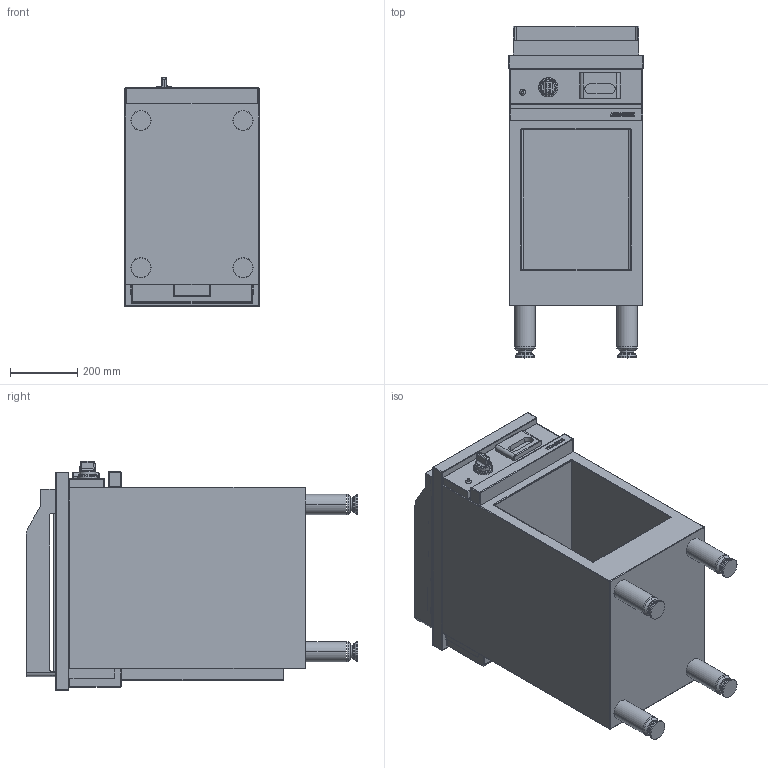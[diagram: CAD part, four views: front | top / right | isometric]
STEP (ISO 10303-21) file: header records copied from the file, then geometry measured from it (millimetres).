
FILE_DESCRIPTION((''),'2;1');
FILE_NAME('CMG410SLRC_EXPORT_STEP_ASM','2017-11-22T',('r.avril'),(''),'PRO/ENGINEER BY PARAMETRIC TECHNOLOGY CORPORATION, 2014200','PRO/ENGINEER BY PARAMETRIC TECHNOLOGY CORPORATION, 2014200','');
FILE_SCHEMA(('AP203_CONFIGURATION_CONTROLLED_3D_DESIGN_OF_MECHANICAL_PARTS_AND_ASSEMBLIES_MIM_LF { 1 0 10303 403 2 1 2 }'));
Length unit declared in the file: millimetre
Products named in the file (10): MODULES_AMB_400_EXPORT_STEP; TABLE_410_GRILLADE; TABLE_410_GRILLADE_ASM; ALLUMEUR_EXPORT_STEP; TIROIR_GRILLADE_EXPORT_STEP; MANETTE_AMB_EXPORT_STEP; 50288700; 50289100; 65070007_ASM; CMG410SLRC_EXPORT_STEP_ASM
Assembly tree (9 placements, depth 3):
  CMG410SLRC_EXPORT_STEP_ASM
    MODULES_AMB_400_EXPORT_STEP
    TABLE_410_GRILLADE_ASM
      TABLE_410_GRILLADE
    ALLUMEUR_EXPORT_STEP
    TIROIR_GRILLADE_EXPORT_STEP
    MANETTE_AMB_EXPORT_STEP
    65070007_ASM
      50288700
      50289100
Bounding box: 400 x 987.43 x 682.5 mm (x, y, z)
Volume: 59787367.8 mm3; surface area: 4653029.4 mm2
Topology: 14 solids, 39 shells, 647 faces, 2187 edges, 1840 vertices
Faces by surface type: plane 227, cylinder 226, cone 86, torus 58, sphere 38, bspline 12
Entity records: 31302 total; most frequent: CARTESIAN_POINT 7651, DIRECTION 3845, ORIENTED_EDGE 3380, EDGE_CURVE 1929, AXIS2_PLACEMENT_3D 1366, VERTEX_POINT 1356, VECTOR 1083, LINE 1083
